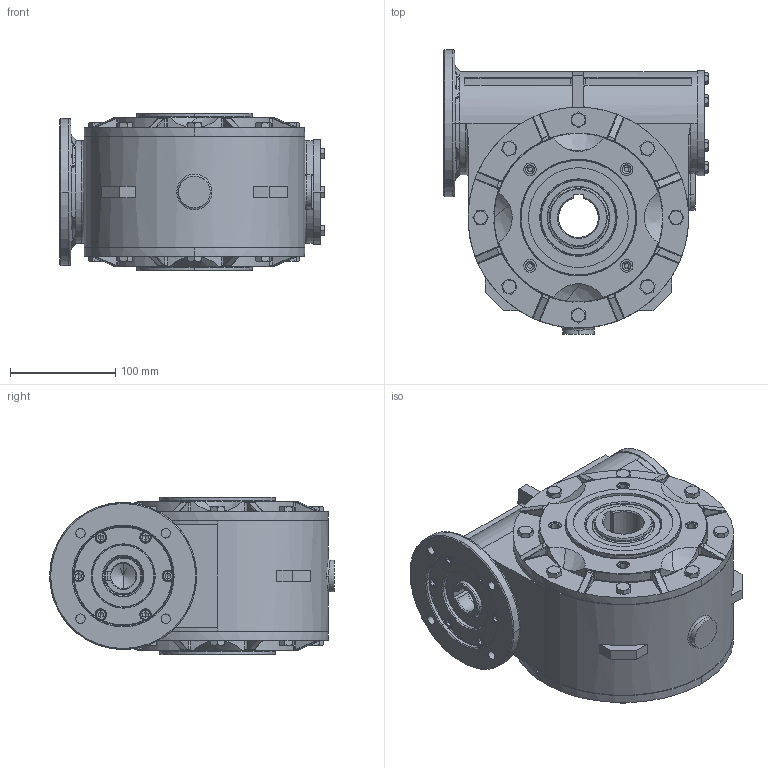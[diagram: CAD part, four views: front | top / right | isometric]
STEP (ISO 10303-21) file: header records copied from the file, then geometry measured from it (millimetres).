
FILE_DESCRIPTION (( 'STEP AP203' ), '1' );
FILE_NAME ('3F002328.STEP', '2012-07-24T05:51:08', ( 'Amministratore' ), ( 'SerteK sas' ), 'SwSTEP 2.0', 'SolidWorks 2009', '' );
FILE_SCHEMA (( 'CONFIG_CONTROL_DESIGN' ));
Length unit declared in the file: millimetre
Products named in the file (1): 3F002328
Bounding box: 251.5 x 271 x 150.3 mm (x, y, z)
Surface area: 613199.5 mm2 (no closed solid volume)
Topology: 0 solids, 48 shells, 2313 faces, 5648 edges, 3496 vertices
Faces by surface type: cylinder 743, bspline 623, plane 616, cone 331
Entity records: 110187 total; most frequent: CARTESIAN_POINT 59899, ORIENTED_EDGE 11122, DIRECTION 9570, EDGE_CURVE 5581, AXIS2_PLACEMENT_3D 3859, VERTEX_POINT 3496, EDGE_LOOP 2537, ADVANCED_FACE 2313
